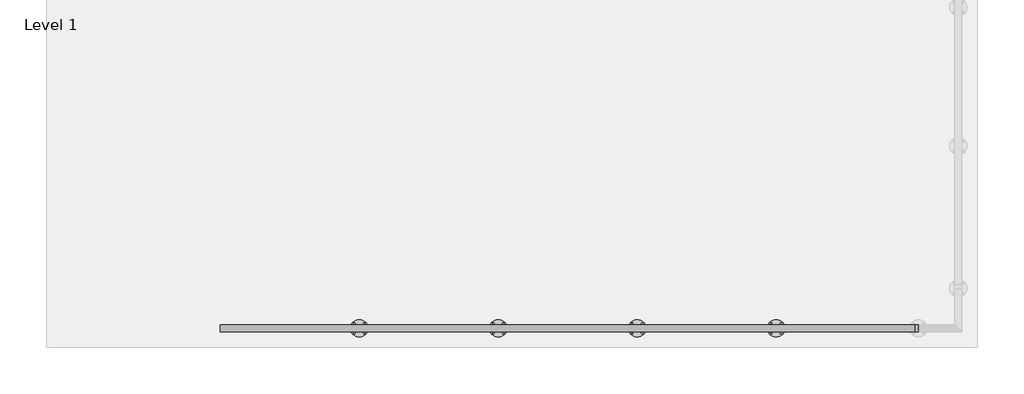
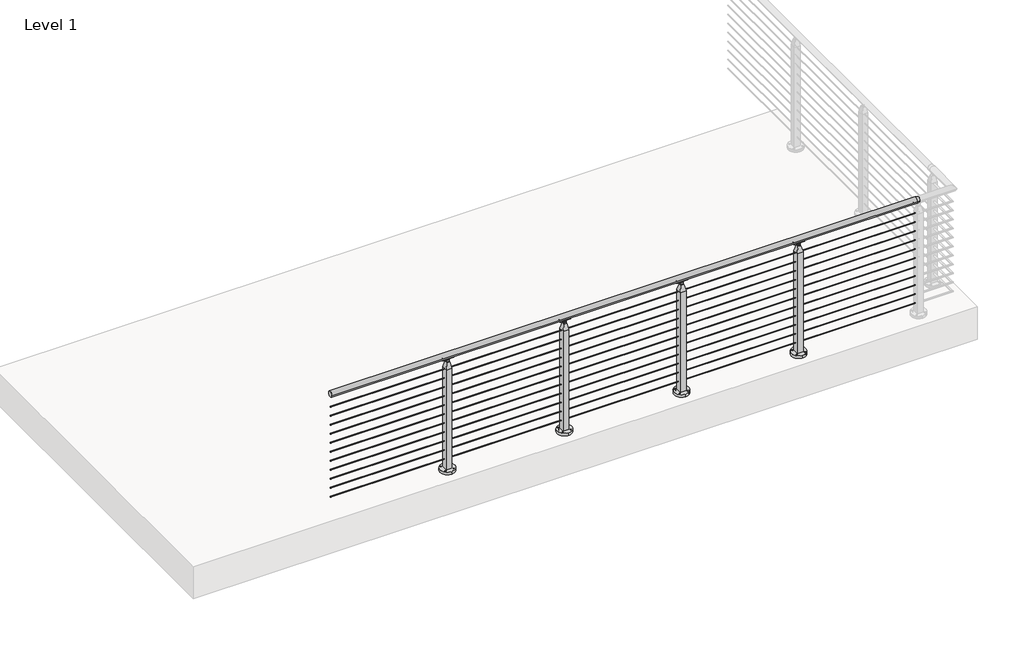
# One storey, part 13 of 26: 1 railing.
"""IFC4 building model written with IfcOpenShell, lengths in millimetres."""

from ifc_helpers import new_model, si_unit, point, frame, frame_2d, origin, origin_with_axes, place, context, project, spatial, polyline, circle_curve, trimmed, segment, composite_curve, outline, extrude, faceted_brep, element, save
from ifc_brep_helpers import plane_surface, cylinder_surface, advanced_brep

model = new_model("IFC4")

# Units and contexts
model_context = context("Model", 3, world=origin())
ifc_project = project(units=[si_unit("LENGTHUNIT", "METRE", prefix="MILLI")], contexts=[model_context])

# Site, building, storey
site = spatial("IfcSite", under=ifc_project)
building = spatial("IfcBuilding", under=site)
storey = spatial("IfcBuildingStorey", under=building, Name="Level 1", Elevation=0.0)

# Railing
placement = place(None, origin())
element("IfcRailing", 1, ObjectType="VIVA-CUBE-Cable-Core Mount-Straight", at=placement, inside=storey, context=model_context, shape_type="SolidModel", body=[
    advanced_brep(
    [(64486.9561718, -57070.1334719, 1054.1), (64486.9561718, -57019.3334719, 1054.1), (69566.9561718, -57070.1334719, 1054.1), (69566.9561718, -57019.3334719, 1054.1), (69591.9592968, -57070.1334719, 1054.1), (69591.9592968, -57019.3334719, 1054.1)],
    [
        (0, 1, circle_curve(frame((64486.9561718, -57044.7334719, 1054.1), z_axis=(-1.0, 0.0, 0.0), x_axis=(0.0, 1.0, 0.0)), 25.4)),
        (1, 0, circle_curve(frame((64486.9561718, -57044.7334719, 1054.1), z_axis=(-1.0, 0.0, 0.0), x_axis=(0.0, 1.0, 0.0)), 25.4)),
        (0, 2),
        (2, 3, circle_curve(frame((69566.9561718, -57044.7334719, 1054.1), z_axis=(-1.0, 0.0, 0.0), x_axis=(0.0, 1.0, 0.0)), 25.4)),
        (3, 1),
        (3, 2, circle_curve(frame((69566.9561718, -57044.7334719, 1054.1), z_axis=(-1.0, 0.0, 0.0), x_axis=(0.0, 1.0, 0.0)), 25.4)),
        (4, 5, circle_curve(frame((69591.9592968, -57044.7334719, 1054.1), z_axis=(1.0, 0.0, 0.0), x_axis=(0.0, 1.0, 0.0)), 25.4)),
        (5, 4, circle_curve(frame((69591.9592968, -57044.7334719, 1054.1), z_axis=(1.0, 0.0, 0.0), x_axis=(0.0, 1.0, 0.0)), 25.4)),
        (2, 4),
        (5, 3),
    ],
    [
        plane_surface(frame((64486.9561718, -57044.7334719, 1079.5), z_axis=(-1.0, 0.0, 0.0), x_axis=(0.0, 1.0, 0.0))),
        cylinder_surface(frame((64486.9561718, -57044.7334719, 1054.1), z_axis=(-1.0, 0.0, 0.0), x_axis=(0.0, 1.0, 0.0)), 25.4),
        plane_surface(frame((69591.9592968, -57044.7334719, 1079.5), z_axis=(1.0, 0.0, 0.0), x_axis=(0.0, 1.0, 0.0))),
        cylinder_surface(frame((69566.9561718, -57044.7334719, 1054.1), z_axis=(-1.0, 0.0, 0.0), x_axis=(0.0, 1.0, 0.0)), 25.4),
    ],
    [
        (0, [[1, 2]]),
        (1, [[-1, 3, 4, 5]]),
        (1, [[-2, -5, 6, -3]]),
        (2, [[7, 8]]),
        (3, [[-4, 9, -8, 10]]),
        (3, [[-6, -10, -7, -9]]),
    ],
),
    extrude(outline(composite_curve([segment(trimmed(circle_curve(frame_2d((-57044.7334719, 937.4124)), 2.3876), [point((-57042.3458719, 937.4124))], [point((-57047.1210719, 937.4124))], False, "CARTESIAN"), True, "CONTINUOUS"), segment(trimmed(circle_curve(frame_2d((-57044.7334719, 937.4124)), 2.3876), [point((-57047.1210719, 937.4124))], [point((-57042.3458719, 937.4124))], False, "CARTESIAN"), True, "CONTINUOUS")], self_intersect=False)), frame((64486.9561718, 0.0, 0.0), z_axis=(1.0, 0.0, 0.0), x_axis=(0.0, 1.0, 0.0)), (0.0, 0.0, 1.0), 5080.0),
    extrude(outline(composite_curve([segment(trimmed(circle_curve(frame_2d((-57044.7334719, 854.8624)), 2.3876), [point((-57042.3458719, 854.8624))], [point((-57047.1210719, 854.8624))], False, "CARTESIAN"), True, "CONTINUOUS"), segment(trimmed(circle_curve(frame_2d((-57044.7334719, 854.8624)), 2.3876), [point((-57047.1210719, 854.8624))], [point((-57042.3458719, 854.8624))], False, "CARTESIAN"), True, "CONTINUOUS")], self_intersect=False)), frame((64486.9561718, 0.0, 0.0), z_axis=(1.0, 0.0, 0.0), x_axis=(0.0, 1.0, 0.0)), (0.0, 0.0, 1.0), 5080.0),
    extrude(outline(composite_curve([segment(trimmed(circle_curve(frame_2d((-57044.7334719, 772.3124)), 2.3876), [point((-57042.3458719, 772.3124))], [point((-57047.1210719, 772.3124))], False, "CARTESIAN"), True, "CONTINUOUS"), segment(trimmed(circle_curve(frame_2d((-57044.7334719, 772.3124)), 2.3876), [point((-57047.1210719, 772.3124))], [point((-57042.3458719, 772.3124))], False, "CARTESIAN"), True, "CONTINUOUS")], self_intersect=False)), frame((64486.9561718, 0.0, 0.0), z_axis=(1.0, 0.0, 0.0), x_axis=(0.0, 1.0, 0.0)), (0.0, 0.0, 1.0), 5080.0),
    extrude(outline(composite_curve([segment(trimmed(circle_curve(frame_2d((-57044.7334719, 689.7624)), 2.3876), [point((-57042.3458719, 689.7624))], [point((-57047.1210719, 689.7624))], False, "CARTESIAN"), True, "CONTINUOUS"), segment(trimmed(circle_curve(frame_2d((-57044.7334719, 689.7624)), 2.3876), [point((-57047.1210719, 689.7624))], [point((-57042.3458719, 689.7624))], False, "CARTESIAN"), True, "CONTINUOUS")], self_intersect=False)), frame((64486.9561718, 0.0, 0.0), z_axis=(1.0, 0.0, 0.0), x_axis=(0.0, 1.0, 0.0)), (0.0, 0.0, 1.0), 5080.0),
    extrude(outline(composite_curve([segment(trimmed(circle_curve(frame_2d((-57044.7334719, 607.2124)), 2.3876), [point((-57042.3458719, 607.2124))], [point((-57047.1210719, 607.2124))], False, "CARTESIAN"), True, "CONTINUOUS"), segment(trimmed(circle_curve(frame_2d((-57044.7334719, 607.2124)), 2.3876), [point((-57047.1210719, 607.2124))], [point((-57042.3458719, 607.2124))], False, "CARTESIAN"), True, "CONTINUOUS")], self_intersect=False)), frame((64486.9561718, 0.0, 0.0), z_axis=(1.0, 0.0, 0.0), x_axis=(0.0, 1.0, 0.0)), (0.0, 0.0, 1.0), 5080.0),
    extrude(outline(composite_curve([segment(trimmed(circle_curve(frame_2d((-57044.7334719, 524.6624)), 2.3876), [point((-57042.3458719, 524.6624))], [point((-57047.1210719, 524.6624))], False, "CARTESIAN"), True, "CONTINUOUS"), segment(trimmed(circle_curve(frame_2d((-57044.7334719, 524.6624)), 2.3876), [point((-57047.1210719, 524.6624))], [point((-57042.3458719, 524.6624))], False, "CARTESIAN"), True, "CONTINUOUS")], self_intersect=False)), frame((64486.9561718, 0.0, 0.0), z_axis=(1.0, 0.0, 0.0), x_axis=(0.0, 1.0, 0.0)), (0.0, 0.0, 1.0), 5080.0),
    extrude(outline(composite_curve([segment(trimmed(circle_curve(frame_2d((-57044.7334719, 442.1124)), 2.3876), [point((-57042.3458719, 442.1124))], [point((-57047.1210719, 442.1124))], False, "CARTESIAN"), True, "CONTINUOUS"), segment(trimmed(circle_curve(frame_2d((-57044.7334719, 442.1124)), 2.3876), [point((-57047.1210719, 442.1124))], [point((-57042.3458719, 442.1124))], False, "CARTESIAN"), True, "CONTINUOUS")], self_intersect=False)), frame((64486.9561718, 0.0, 0.0), z_axis=(1.0, 0.0, 0.0), x_axis=(0.0, 1.0, 0.0)), (0.0, 0.0, 1.0), 5080.0),
    extrude(outline(composite_curve([segment(trimmed(circle_curve(frame_2d((-57044.7334719, 359.5624)), 2.3876), [point((-57042.3458719, 359.5624))], [point((-57047.1210719, 359.5624))], False, "CARTESIAN"), True, "CONTINUOUS"), segment(trimmed(circle_curve(frame_2d((-57044.7334719, 359.5624)), 2.3876), [point((-57047.1210719, 359.5624))], [point((-57042.3458719, 359.5624))], False, "CARTESIAN"), True, "CONTINUOUS")], self_intersect=False)), frame((64486.9561718, 0.0, 0.0), z_axis=(1.0, 0.0, 0.0), x_axis=(0.0, 1.0, 0.0)), (0.0, 0.0, 1.0), 5080.0),
    extrude(outline(composite_curve([segment(trimmed(circle_curve(frame_2d((-57044.7334719, 277.0124)), 2.3876), [point((-57042.3458719, 277.0124))], [point((-57047.1210719, 277.0124))], False, "CARTESIAN"), True, "CONTINUOUS"), segment(trimmed(circle_curve(frame_2d((-57044.7334719, 277.0124)), 2.3876), [point((-57047.1210719, 277.0124))], [point((-57042.3458719, 277.0124))], False, "CARTESIAN"), True, "CONTINUOUS")], self_intersect=False)), frame((64486.9561718, 0.0, 0.0), z_axis=(1.0, 0.0, 0.0), x_axis=(0.0, 1.0, 0.0)), (0.0, 0.0, 1.0), 5080.0),
    extrude(outline(composite_curve([segment(trimmed(circle_curve(frame_2d((-57044.7334719, 194.4624)), 2.3876), [point((-57042.3458719, 194.4624))], [point((-57047.1210719, 194.4624))], False, "CARTESIAN"), True, "CONTINUOUS"), segment(trimmed(circle_curve(frame_2d((-57044.7334719, 194.4624)), 2.3876), [point((-57047.1210719, 194.4624))], [point((-57042.3458719, 194.4624))], False, "CARTESIAN"), True, "CONTINUOUS")], self_intersect=False)), frame((64486.9561718, 0.0, 0.0), z_axis=(1.0, 0.0, 0.0), x_axis=(0.0, 1.0, 0.0)), (0.0, 0.0, 1.0), 5080.0),
    extrude(outline(composite_curve([segment(trimmed(circle_curve(frame_2d((-57044.7334719, 111.9124)), 2.3876), [point((-57042.3458719, 111.9124))], [point((-57047.1210719, 111.9124))], False, "CARTESIAN"), True, "CONTINUOUS"), segment(trimmed(circle_curve(frame_2d((-57044.7334719, 111.9124)), 2.3876), [point((-57047.1210719, 111.9124))], [point((-57042.3458719, 111.9124))], False, "CARTESIAN"), True, "CONTINUOUS")], self_intersect=False)), frame((64486.9561718, 0.0, 0.0), z_axis=(1.0, 0.0, 0.0), x_axis=(0.0, 1.0, 0.0)), (0.0, 0.0, 1.0), 5080.0),
    extrude(outline(composite_curve([segment(trimmed(circle_curve(frame_2d((68551.3530468, -57044.7334719)), 63.5), [point((68551.3530468, -57108.2334719))], [point((68551.3530468, -56981.2334719))], False, "CARTESIAN"), True, "CONTINUOUS"), segment(trimmed(circle_curve(frame_2d((68551.3530468, -57044.7334719)), 63.5), [point((68551.3530468, -56981.2334719))], [point((68551.3530468, -57108.2334719))], False, "CARTESIAN"), True, "CONTINUOUS")], self_intersect=False), holes=[composite_curve([segment(trimmed(circle_curve(frame_2d((68515.8833029, -57080.2032157)), 4.7625), [point((68515.8833029, -57084.9657157))], [point((68515.8833029, -57075.4407157))], True, "CARTESIAN"), True, "CONTINUOUS"), segment(trimmed(circle_curve(frame_2d((68515.8833029, -57080.2032157)), 4.7625), [point((68515.8833029, -57075.4407157))], [point((68515.8833029, -57084.9657157))], True, "CARTESIAN"), True, "CONTINUOUS")], self_intersect=False), composite_curve([segment(trimmed(circle_curve(frame_2d((68515.8833029, -57009.263728)), 4.7625), [point((68515.8833029, -57014.026228))], [point((68515.8833029, -57004.501228))], True, "CARTESIAN"), True, "CONTINUOUS"), segment(trimmed(circle_curve(frame_2d((68515.8833029, -57009.263728)), 4.7625), [point((68515.8833029, -57004.501228))], [point((68515.8833029, -57014.026228))], True, "CARTESIAN"), True, "CONTINUOUS")], self_intersect=False), composite_curve([segment(trimmed(circle_curve(frame_2d((68586.8227906, -57080.2032157)), 4.7625), [point((68586.8227906, -57084.9657157))], [point((68586.8227906, -57075.4407157))], True, "CARTESIAN"), True, "CONTINUOUS"), segment(trimmed(circle_curve(frame_2d((68586.8227906, -57080.2032157)), 4.7625), [point((68586.8227906, -57075.4407157))], [point((68586.8227906, -57084.9657157))], True, "CARTESIAN"), True, "CONTINUOUS")], self_intersect=False), composite_curve([segment(trimmed(circle_curve(frame_2d((68586.8227906, -57009.263728)), 4.7625), [point((68586.8227906, -57014.026228))], [point((68586.8227906, -57004.501228))], True, "CARTESIAN"), True, "CONTINUOUS"), segment(trimmed(circle_curve(frame_2d((68586.8227906, -57009.263728)), 4.7625), [point((68586.8227906, -57004.501228))], [point((68586.8227906, -57014.026228))], True, "CARTESIAN"), True, "CONTINUOUS")], self_intersect=False)]), origin_with_axes(), (0.0, 0.0, 1.0), 25.4),
    faceted_brep([(68564.0530468, -57032.0334719, 997.2902749), (68538.6530468, -57032.0334719, 997.2902749), (68538.6530468, -57040.7647219, 997.2902749), (68564.0530468, -57040.7647219, 997.2902749), (68538.6530468, -57057.4334719, 997.2902749), (68564.0530468, -57057.4334719, 997.2902749), (68564.0530468, -57048.7022219, 997.2902749), (68538.6530468, -57048.7022219, 997.2902749), (68576.7530468, -57019.3334719, 941.1347854), (68576.7530468, -57070.1334719, 941.1347854), (68525.9530468, -57019.3334719, 941.1347854), (68525.9530468, -57070.1334719, 941.1347854), (68576.7530468, -57019.3334719, -88.9), (68576.7530468, -57070.1334719, -88.9), (68525.9530468, -57070.1334719, -88.9), (68525.9530468, -57019.3334719, -88.9), (68538.6530468, -57048.7022219, 1009.3306013), (68564.0530468, -57048.7022219, 1009.3306013), (68564.0530468, -57040.7647219, 1009.3306013), (68538.6530468, -57040.7647219, 1009.3306013)], [[[0, 1, 2, 3]], [[4, 5, 6, 7]], [[8, 0, 3, 6, 5, 9]], [[1, 0, 8, 10]], [[1, 10, 11, 4, 7, 2]], [[5, 4, 11, 9]], [[12, 13, 14, 15]], [[12, 15, 10, 8]], [[15, 14, 11, 10]], [[14, 13, 9, 11]], [[13, 12, 8, 9]], [[16, 17, 18, 19]], [[17, 16, 7, 6]], [[18, 17, 6, 3]], [[19, 18, 3, 2]], [[16, 19, 2, 7]]]),
    extrude(outline(composite_curve([segment(trimmed(circle_curve(frame_2d((-57044.6367435, 1054.1433184)), 25.4345159), [point((-57057.2005464, 1032.0284941))], [point((-57032.2415097, 1031.9335733))], True, "CARTESIAN"), True, "CONTINUOUS"), segment(trimmed(circle_curve(frame_2d((-57030.9968566, 1029.4310885)), 2.7949225), [point((-57032.2415097, 1031.9335733))], [point((-57029.5195515, 1027.0585031))], False, "CARTESIAN"), True, "CONTINUOUS"), segment(trimmed(circle_curve(frame_2d((-57044.7702066, 1054.905945)), 31.75), [point((-57029.5195515, 1027.0585031))], [point((-57061.0364438, 1027.6392616))], False, "CARTESIAN"), True, "CONTINUOUS"), segment(trimmed(circle_curve(frame_2d((-57058.7481041, 1029.5101807)), 2.9558141), [point((-57061.0364438, 1027.6392616))], [point((-57057.2005464, 1032.0284941))], False, "CARTESIAN"), True, "CONTINUOUS")], self_intersect=False)), frame((68506.1156468, 0.0, 0.0), z_axis=(1.0, 0.0, 0.0), x_axis=(0.0, 1.0, 0.0)), (0.0, 0.0, 1.0), 90.4748),
    extrude(outline(composite_curve([segment(polyline([(1023.3685171, 68578.4209616), (1023.3685171, 68524.2851319)]), True, "CONTINUOUS"), segment(trimmed(circle_curve(frame_2d((1009.0006022, 68524.2851319)), 14.3679149), [point((1023.3685171, 68524.2851319))], [point((1009.0006022, 68538.6530468))], True, "CARTESIAN"), True, "CONTINUOUS"), segment(trimmed(circle_curve(frame_2d((1009.0006022, 68551.3530468)), 12.7), [point((1009.0006022, 68538.6530468))], [point((1009.0006022, 68564.0530468))], False, "CARTESIAN"), True, "CONTINUOUS"), segment(trimmed(circle_curve(frame_2d((1009.0006022, 68578.4209616)), 14.3679149), [point((1009.0006022, 68564.0530468))], [point((1023.3685171, 68578.4209616))], True, "CARTESIAN"), True, "CONTINUOUS")], self_intersect=False)), frame((0.0, -57047.2734719, 0.0), z_axis=(0.0, 1.0, 0.0), x_axis=(0.0, 0.0, 1.0)), (0.0, 0.0, 1.0), 5.08),
    extrude(outline(composite_curve([segment(trimmed(circle_curve(frame_2d((67535.3530468, -57044.7334719)), 63.5), [point((67535.3530468, -57108.2334719))], [point((67535.3530468, -56981.2334719))], False, "CARTESIAN"), True, "CONTINUOUS"), segment(trimmed(circle_curve(frame_2d((67535.3530468, -57044.7334719)), 63.5), [point((67535.3530468, -56981.2334719))], [point((67535.3530468, -57108.2334719))], False, "CARTESIAN"), True, "CONTINUOUS")], self_intersect=False), holes=[composite_curve([segment(trimmed(circle_curve(frame_2d((67499.8833029, -57080.2032157)), 4.7625), [point((67499.8833029, -57084.9657157))], [point((67499.8833029, -57075.4407157))], True, "CARTESIAN"), True, "CONTINUOUS"), segment(trimmed(circle_curve(frame_2d((67499.8833029, -57080.2032157)), 4.7625), [point((67499.8833029, -57075.4407157))], [point((67499.8833029, -57084.9657157))], True, "CARTESIAN"), True, "CONTINUOUS")], self_intersect=False), composite_curve([segment(trimmed(circle_curve(frame_2d((67499.8833029, -57009.263728)), 4.7625), [point((67499.8833029, -57014.026228))], [point((67499.8833029, -57004.501228))], True, "CARTESIAN"), True, "CONTINUOUS"), segment(trimmed(circle_curve(frame_2d((67499.8833029, -57009.263728)), 4.7625), [point((67499.8833029, -57004.501228))], [point((67499.8833029, -57014.026228))], True, "CARTESIAN"), True, "CONTINUOUS")], self_intersect=False), composite_curve([segment(trimmed(circle_curve(frame_2d((67570.8227906, -57080.2032157)), 4.7625), [point((67570.8227906, -57084.9657157))], [point((67570.8227906, -57075.4407157))], True, "CARTESIAN"), True, "CONTINUOUS"), segment(trimmed(circle_curve(frame_2d((67570.8227906, -57080.2032157)), 4.7625), [point((67570.8227906, -57075.4407157))], [point((67570.8227906, -57084.9657157))], True, "CARTESIAN"), True, "CONTINUOUS")], self_intersect=False), composite_curve([segment(trimmed(circle_curve(frame_2d((67570.8227906, -57009.263728)), 4.7625), [point((67570.8227906, -57014.026228))], [point((67570.8227906, -57004.501228))], True, "CARTESIAN"), True, "CONTINUOUS"), segment(trimmed(circle_curve(frame_2d((67570.8227906, -57009.263728)), 4.7625), [point((67570.8227906, -57004.501228))], [point((67570.8227906, -57014.026228))], True, "CARTESIAN"), True, "CONTINUOUS")], self_intersect=False)]), origin_with_axes(), (0.0, 0.0, 1.0), 25.4),
    faceted_brep([(67548.0530468, -57032.0334719, 997.2902749), (67522.6530468, -57032.0334719, 997.2902749), (67522.6530468, -57040.7647219, 997.2902749), (67548.0530468, -57040.7647219, 997.2902749), (67522.6530468, -57057.4334719, 997.2902749), (67548.0530468, -57057.4334719, 997.2902749), (67548.0530468, -57048.7022219, 997.2902749), (67522.6530468, -57048.7022219, 997.2902749), (67560.7530468, -57019.3334719, 941.1347854), (67560.7530468, -57070.1334719, 941.1347854), (67509.9530468, -57019.3334719, 941.1347854), (67509.9530468, -57070.1334719, 941.1347854), (67560.7530468, -57019.3334719, -88.9), (67560.7530468, -57070.1334719, -88.9), (67509.9530468, -57070.1334719, -88.9), (67509.9530468, -57019.3334719, -88.9), (67522.6530468, -57048.7022219, 1009.3306013), (67548.0530468, -57048.7022219, 1009.3306013), (67548.0530468, -57040.7647219, 1009.3306013), (67522.6530468, -57040.7647219, 1009.3306013)], [[[0, 1, 2, 3]], [[4, 5, 6, 7]], [[8, 0, 3, 6, 5, 9]], [[1, 0, 8, 10]], [[1, 10, 11, 4, 7, 2]], [[5, 4, 11, 9]], [[12, 13, 14, 15]], [[12, 15, 10, 8]], [[15, 14, 11, 10]], [[14, 13, 9, 11]], [[13, 12, 8, 9]], [[16, 17, 18, 19]], [[17, 16, 7, 6]], [[18, 17, 6, 3]], [[19, 18, 3, 2]], [[16, 19, 2, 7]]]),
    extrude(outline(composite_curve([segment(trimmed(circle_curve(frame_2d((-57044.6367435, 1054.1433184)), 25.4345159), [point((-57057.2005464, 1032.0284941))], [point((-57032.2415097, 1031.9335733))], True, "CARTESIAN"), True, "CONTINUOUS"), segment(trimmed(circle_curve(frame_2d((-57030.9968566, 1029.4310885)), 2.7949225), [point((-57032.2415097, 1031.9335733))], [point((-57029.5195515, 1027.0585031))], False, "CARTESIAN"), True, "CONTINUOUS"), segment(trimmed(circle_curve(frame_2d((-57044.7702066, 1054.905945)), 31.75), [point((-57029.5195515, 1027.0585031))], [point((-57061.0364438, 1027.6392616))], False, "CARTESIAN"), True, "CONTINUOUS"), segment(trimmed(circle_curve(frame_2d((-57058.7481041, 1029.5101807)), 2.9558141), [point((-57061.0364438, 1027.6392616))], [point((-57057.2005464, 1032.0284941))], False, "CARTESIAN"), True, "CONTINUOUS")], self_intersect=False)), frame((67490.1156468, 0.0, 0.0), z_axis=(1.0, 0.0, 0.0), x_axis=(0.0, 1.0, 0.0)), (0.0, 0.0, 1.0), 90.4748),
    extrude(outline(composite_curve([segment(polyline([(1023.3685171, 67562.4209616), (1023.3685171, 67508.2851319)]), True, "CONTINUOUS"), segment(trimmed(circle_curve(frame_2d((1009.0006022, 67508.2851319)), 14.3679149), [point((1023.3685171, 67508.2851319))], [point((1009.0006022, 67522.6530468))], True, "CARTESIAN"), True, "CONTINUOUS"), segment(trimmed(circle_curve(frame_2d((1009.0006022, 67535.3530468)), 12.7), [point((1009.0006022, 67522.6530468))], [point((1009.0006022, 67548.0530468))], False, "CARTESIAN"), True, "CONTINUOUS"), segment(trimmed(circle_curve(frame_2d((1009.0006022, 67562.4209616)), 14.3679149), [point((1009.0006022, 67548.0530468))], [point((1023.3685171, 67562.4209616))], True, "CARTESIAN"), True, "CONTINUOUS")], self_intersect=False)), frame((0.0, -57047.2734719, 0.0), z_axis=(0.0, 1.0, 0.0), x_axis=(0.0, 0.0, 1.0)), (0.0, 0.0, 1.0), 5.08),
    extrude(outline(composite_curve([segment(trimmed(circle_curve(frame_2d((66519.3530468, -57044.7334719)), 63.5), [point((66519.3530468, -57108.2334719))], [point((66519.3530468, -56981.2334719))], False, "CARTESIAN"), True, "CONTINUOUS"), segment(trimmed(circle_curve(frame_2d((66519.3530468, -57044.7334719)), 63.5), [point((66519.3530468, -56981.2334719))], [point((66519.3530468, -57108.2334719))], False, "CARTESIAN"), True, "CONTINUOUS")], self_intersect=False), holes=[composite_curve([segment(trimmed(circle_curve(frame_2d((66483.8833029, -57080.2032157)), 4.7625), [point((66483.8833029, -57084.9657157))], [point((66483.8833029, -57075.4407157))], True, "CARTESIAN"), True, "CONTINUOUS"), segment(trimmed(circle_curve(frame_2d((66483.8833029, -57080.2032157)), 4.7625), [point((66483.8833029, -57075.4407157))], [point((66483.8833029, -57084.9657157))], True, "CARTESIAN"), True, "CONTINUOUS")], self_intersect=False), composite_curve([segment(trimmed(circle_curve(frame_2d((66483.8833029, -57009.263728)), 4.7625), [point((66483.8833029, -57014.026228))], [point((66483.8833029, -57004.501228))], True, "CARTESIAN"), True, "CONTINUOUS"), segment(trimmed(circle_curve(frame_2d((66483.8833029, -57009.263728)), 4.7625), [point((66483.8833029, -57004.501228))], [point((66483.8833029, -57014.026228))], True, "CARTESIAN"), True, "CONTINUOUS")], self_intersect=False), composite_curve([segment(trimmed(circle_curve(frame_2d((66554.8227906, -57080.2032157)), 4.7625), [point((66554.8227906, -57084.9657157))], [point((66554.8227906, -57075.4407157))], True, "CARTESIAN"), True, "CONTINUOUS"), segment(trimmed(circle_curve(frame_2d((66554.8227906, -57080.2032157)), 4.7625), [point((66554.8227906, -57075.4407157))], [point((66554.8227906, -57084.9657157))], True, "CARTESIAN"), True, "CONTINUOUS")], self_intersect=False), composite_curve([segment(trimmed(circle_curve(frame_2d((66554.8227906, -57009.263728)), 4.7625), [point((66554.8227906, -57014.026228))], [point((66554.8227906, -57004.501228))], True, "CARTESIAN"), True, "CONTINUOUS"), segment(trimmed(circle_curve(frame_2d((66554.8227906, -57009.263728)), 4.7625), [point((66554.8227906, -57004.501228))], [point((66554.8227906, -57014.026228))], True, "CARTESIAN"), True, "CONTINUOUS")], self_intersect=False)]), origin_with_axes(), (0.0, 0.0, 1.0), 25.4),
    faceted_brep([(66532.0530468, -57032.0334719, 997.2902749), (66506.6530468, -57032.0334719, 997.2902749), (66506.6530468, -57040.7647219, 997.2902749), (66532.0530468, -57040.7647219, 997.2902749), (66506.6530468, -57057.4334719, 997.2902749), (66532.0530468, -57057.4334719, 997.2902749), (66532.0530468, -57048.7022219, 997.2902749), (66506.6530468, -57048.7022219, 997.2902749), (66544.7530468, -57019.3334719, 941.1347854), (66544.7530468, -57070.1334719, 941.1347854), (66493.9530468, -57019.3334719, 941.1347854), (66493.9530468, -57070.1334719, 941.1347854), (66544.7530468, -57019.3334719, -88.9), (66544.7530468, -57070.1334719, -88.9), (66493.9530468, -57070.1334719, -88.9), (66493.9530468, -57019.3334719, -88.9), (66506.6530468, -57048.7022219, 1009.3306013), (66532.0530468, -57048.7022219, 1009.3306013), (66532.0530468, -57040.7647219, 1009.3306013), (66506.6530468, -57040.7647219, 1009.3306013)], [[[0, 1, 2, 3]], [[4, 5, 6, 7]], [[8, 0, 3, 6, 5, 9]], [[1, 0, 8, 10]], [[1, 10, 11, 4, 7, 2]], [[5, 4, 11, 9]], [[12, 13, 14, 15]], [[12, 15, 10, 8]], [[15, 14, 11, 10]], [[14, 13, 9, 11]], [[13, 12, 8, 9]], [[16, 17, 18, 19]], [[17, 16, 7, 6]], [[18, 17, 6, 3]], [[19, 18, 3, 2]], [[16, 19, 2, 7]]]),
    extrude(outline(composite_curve([segment(trimmed(circle_curve(frame_2d((-57044.6367435, 1054.1433184)), 25.4345159), [point((-57057.2005464, 1032.0284941))], [point((-57032.2415097, 1031.9335733))], True, "CARTESIAN"), True, "CONTINUOUS"), segment(trimmed(circle_curve(frame_2d((-57030.9968566, 1029.4310885)), 2.7949225), [point((-57032.2415097, 1031.9335733))], [point((-57029.5195515, 1027.0585031))], False, "CARTESIAN"), True, "CONTINUOUS"), segment(trimmed(circle_curve(frame_2d((-57044.7702066, 1054.905945)), 31.75), [point((-57029.5195515, 1027.0585031))], [point((-57061.0364438, 1027.6392616))], False, "CARTESIAN"), True, "CONTINUOUS"), segment(trimmed(circle_curve(frame_2d((-57058.7481041, 1029.5101807)), 2.9558141), [point((-57061.0364438, 1027.6392616))], [point((-57057.2005464, 1032.0284941))], False, "CARTESIAN"), True, "CONTINUOUS")], self_intersect=False)), frame((66474.1156468, 0.0, 0.0), z_axis=(1.0, 0.0, 0.0), x_axis=(0.0, 1.0, 0.0)), (0.0, 0.0, 1.0), 90.4748),
    extrude(outline(composite_curve([segment(polyline([(1023.3685171, 66546.4209616), (1023.3685171, 66492.2851319)]), True, "CONTINUOUS"), segment(trimmed(circle_curve(frame_2d((1009.0006022, 66492.2851319)), 14.3679149), [point((1023.3685171, 66492.2851319))], [point((1009.0006022, 66506.6530468))], True, "CARTESIAN"), True, "CONTINUOUS"), segment(trimmed(circle_curve(frame_2d((1009.0006022, 66519.3530468)), 12.7), [point((1009.0006022, 66506.6530468))], [point((1009.0006022, 66532.0530468))], False, "CARTESIAN"), True, "CONTINUOUS"), segment(trimmed(circle_curve(frame_2d((1009.0006022, 66546.4209616)), 14.3679149), [point((1009.0006022, 66532.0530468))], [point((1023.3685171, 66546.4209616))], True, "CARTESIAN"), True, "CONTINUOUS")], self_intersect=False)), frame((0.0, -57047.2734719, 0.0), z_axis=(0.0, 1.0, 0.0), x_axis=(0.0, 0.0, 1.0)), (0.0, 0.0, 1.0), 5.08),
    extrude(outline(composite_curve([segment(trimmed(circle_curve(frame_2d((65503.3530468, -57044.7334719)), 63.5), [point((65503.3530468, -57108.2334719))], [point((65503.3530468, -56981.2334719))], False, "CARTESIAN"), True, "CONTINUOUS"), segment(trimmed(circle_curve(frame_2d((65503.3530468, -57044.7334719)), 63.5), [point((65503.3530468, -56981.2334719))], [point((65503.3530468, -57108.2334719))], False, "CARTESIAN"), True, "CONTINUOUS")], self_intersect=False), holes=[composite_curve([segment(trimmed(circle_curve(frame_2d((65467.8833029, -57080.2032157)), 4.7625), [point((65467.8833029, -57084.9657157))], [point((65467.8833029, -57075.4407157))], True, "CARTESIAN"), True, "CONTINUOUS"), segment(trimmed(circle_curve(frame_2d((65467.8833029, -57080.2032157)), 4.7625), [point((65467.8833029, -57075.4407157))], [point((65467.8833029, -57084.9657157))], True, "CARTESIAN"), True, "CONTINUOUS")], self_intersect=False), composite_curve([segment(trimmed(circle_curve(frame_2d((65467.8833029, -57009.263728)), 4.7625), [point((65467.8833029, -57014.026228))], [point((65467.8833029, -57004.501228))], True, "CARTESIAN"), True, "CONTINUOUS"), segment(trimmed(circle_curve(frame_2d((65467.8833029, -57009.263728)), 4.7625), [point((65467.8833029, -57004.501228))], [point((65467.8833029, -57014.026228))], True, "CARTESIAN"), True, "CONTINUOUS")], self_intersect=False), composite_curve([segment(trimmed(circle_curve(frame_2d((65538.8227906, -57080.2032157)), 4.7625), [point((65538.8227906, -57084.9657157))], [point((65538.8227906, -57075.4407157))], True, "CARTESIAN"), True, "CONTINUOUS"), segment(trimmed(circle_curve(frame_2d((65538.8227906, -57080.2032157)), 4.7625), [point((65538.8227906, -57075.4407157))], [point((65538.8227906, -57084.9657157))], True, "CARTESIAN"), True, "CONTINUOUS")], self_intersect=False), composite_curve([segment(trimmed(circle_curve(frame_2d((65538.8227906, -57009.263728)), 4.7625), [point((65538.8227906, -57014.026228))], [point((65538.8227906, -57004.501228))], True, "CARTESIAN"), True, "CONTINUOUS"), segment(trimmed(circle_curve(frame_2d((65538.8227906, -57009.263728)), 4.7625), [point((65538.8227906, -57004.501228))], [point((65538.8227906, -57014.026228))], True, "CARTESIAN"), True, "CONTINUOUS")], self_intersect=False)]), origin_with_axes(), (0.0, 0.0, 1.0), 25.4),
    faceted_brep([(65516.0530468, -57032.0334719, 997.2902749), (65490.6530468, -57032.0334719, 997.2902749), (65490.6530468, -57040.7647219, 997.2902749), (65516.0530468, -57040.7647219, 997.2902749), (65490.6530468, -57057.4334719, 997.2902749), (65516.0530468, -57057.4334719, 997.2902749), (65516.0530468, -57048.7022219, 997.2902749), (65490.6530468, -57048.7022219, 997.2902749), (65528.7530468, -57019.3334719, 941.1347854), (65528.7530468, -57070.1334719, 941.1347854), (65477.9530468, -57019.3334719, 941.1347854), (65477.9530468, -57070.1334719, 941.1347854), (65528.7530468, -57019.3334719, -88.9), (65528.7530468, -57070.1334719, -88.9), (65477.9530468, -57070.1334719, -88.9), (65477.9530468, -57019.3334719, -88.9), (65490.6530468, -57048.7022219, 1009.3306013), (65516.0530468, -57048.7022219, 1009.3306013), (65516.0530468, -57040.7647219, 1009.3306013), (65490.6530468, -57040.7647219, 1009.3306013)], [[[0, 1, 2, 3]], [[4, 5, 6, 7]], [[8, 0, 3, 6, 5, 9]], [[1, 0, 8, 10]], [[1, 10, 11, 4, 7, 2]], [[5, 4, 11, 9]], [[12, 13, 14, 15]], [[12, 15, 10, 8]], [[15, 14, 11, 10]], [[14, 13, 9, 11]], [[13, 12, 8, 9]], [[16, 17, 18, 19]], [[17, 16, 7, 6]], [[18, 17, 6, 3]], [[19, 18, 3, 2]], [[16, 19, 2, 7]]]),
    extrude(outline(composite_curve([segment(trimmed(circle_curve(frame_2d((-57044.6367435, 1054.1433184)), 25.4345159), [point((-57057.2005464, 1032.0284941))], [point((-57032.2415097, 1031.9335733))], True, "CARTESIAN"), True, "CONTINUOUS"), segment(trimmed(circle_curve(frame_2d((-57030.9968566, 1029.4310885)), 2.7949225), [point((-57032.2415097, 1031.9335733))], [point((-57029.5195515, 1027.0585031))], False, "CARTESIAN"), True, "CONTINUOUS"), segment(trimmed(circle_curve(frame_2d((-57044.7702066, 1054.905945)), 31.75), [point((-57029.5195515, 1027.0585031))], [point((-57061.0364438, 1027.6392616))], False, "CARTESIAN"), True, "CONTINUOUS"), segment(trimmed(circle_curve(frame_2d((-57058.7481041, 1029.5101807)), 2.9558141), [point((-57061.0364438, 1027.6392616))], [point((-57057.2005464, 1032.0284941))], False, "CARTESIAN"), True, "CONTINUOUS")], self_intersect=False)), frame((65458.1156468, 0.0, 0.0), z_axis=(1.0, 0.0, 0.0), x_axis=(0.0, 1.0, 0.0)), (0.0, 0.0, 1.0), 90.4748),
    extrude(outline(composite_curve([segment(polyline([(1023.3685171, 65530.4209616), (1023.3685171, 65476.2851319)]), True, "CONTINUOUS"), segment(trimmed(circle_curve(frame_2d((1009.0006022, 65476.2851319)), 14.3679149), [point((1023.3685171, 65476.2851319))], [point((1009.0006022, 65490.6530468))], True, "CARTESIAN"), True, "CONTINUOUS"), segment(trimmed(circle_curve(frame_2d((1009.0006022, 65503.3530468)), 12.7), [point((1009.0006022, 65490.6530468))], [point((1009.0006022, 65516.0530468))], False, "CARTESIAN"), True, "CONTINUOUS"), segment(trimmed(circle_curve(frame_2d((1009.0006022, 65530.4209616)), 14.3679149), [point((1009.0006022, 65516.0530468))], [point((1023.3685171, 65530.4209616))], True, "CARTESIAN"), True, "CONTINUOUS")], self_intersect=False)), frame((0.0, -57047.2734719, 0.0), z_axis=(0.0, 1.0, 0.0), x_axis=(0.0, 0.0, 1.0)), (0.0, 0.0, 1.0), 5.08),
])

save(model, "model.ifc")
